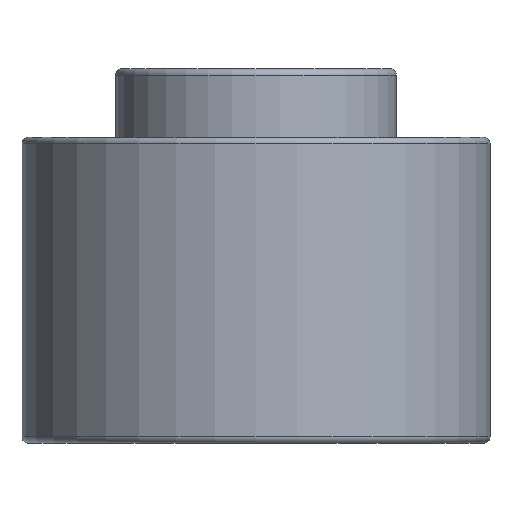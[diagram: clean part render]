
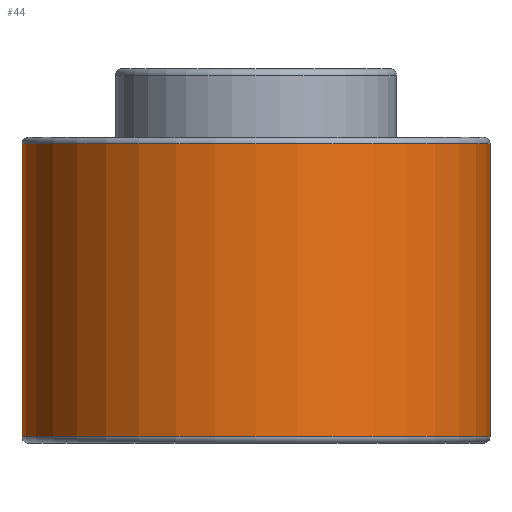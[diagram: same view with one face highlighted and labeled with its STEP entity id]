
A CAD part, front view. The second image highlights one B-rep face of the part: STEP entity #44.
In plain terms, the highlighted cylindrical face has radius 37.5 mm (diameter 75 mm), a full revolution.
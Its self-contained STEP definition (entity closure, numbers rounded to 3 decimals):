
#44=ADVANCED_FACE('',(#60,#61),#56,.T.);
#56=CYLINDRICAL_SURFACE('',#166,37.5);
#60=FACE_BOUND('',#84,.T.);
#61=FACE_BOUND('',#85,.T.);
#84=EDGE_LOOP('',(#106));
#85=EDGE_LOOP('',(#107));
#106=ORIENTED_EDGE('',*,*,#141,.F.);
#107=ORIENTED_EDGE('',*,*,#142,.T.);
#128=VERTEX_POINT('',#237);
#129=VERTEX_POINT('',#239);
#141=EDGE_CURVE('',#128,#128,#152,.T.);
#142=EDGE_CURVE('',#129,#129,#153,.T.);
#152=CIRCLE('',#164,37.5);
#153=CIRCLE('',#165,37.5);
#164=AXIS2_PLACEMENT_3D('',#236,#189,#190);
#165=AXIS2_PLACEMENT_3D('',#238,#191,#192);
#166=AXIS2_PLACEMENT_3D('',#240,#193,#194);
#189=DIRECTION('',(0.,0.,-1.));
#190=DIRECTION('',(-1.,0.,0.));
#191=DIRECTION('',(0.,0.,-1.));
#192=DIRECTION('',(-1.,0.,0.));
#193=DIRECTION('',(0.,0.,-1.));
#194=DIRECTION('',(-1.,0.,0.));
#236=CARTESIAN_POINT('',(0.,0.,1.));
#237=CARTESIAN_POINT('',(-37.5,0.,1.));
#238=CARTESIAN_POINT('',(0.,0.,48.));
#239=CARTESIAN_POINT('',(-37.5,0.,48.));
#240=CARTESIAN_POINT('',(0.,0.,0.));
